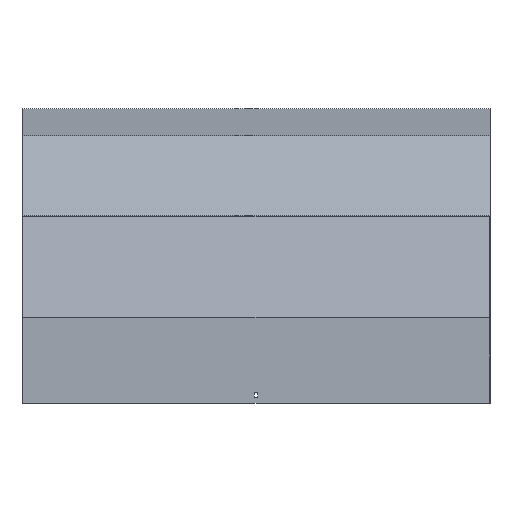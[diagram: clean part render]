
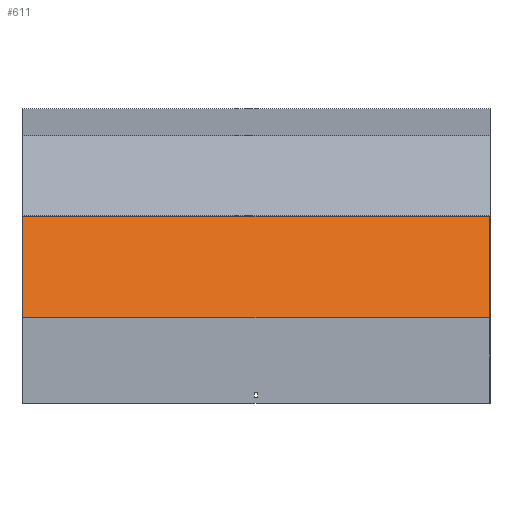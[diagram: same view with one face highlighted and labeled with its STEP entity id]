
A CAD part, top view. The second image highlights one B-rep face of the part: STEP entity #611.
In plain terms, the highlighted planar face has unit normal (0, 0.259, 0.966).
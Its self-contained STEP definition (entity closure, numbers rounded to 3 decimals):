
#23 = EDGE_CURVE ( 'NONE', #1056, #671, #93, .T. ) ;
#93 = LINE ( 'NONE', #342, #1076 ) ;
#97 = CARTESIAN_POINT ( 'NONE',  ( 451.5, -187.902, 517.072 ) ) ;
#102 = VECTOR ( 'NONE', #889, 1000. ) ;
#131 = CARTESIAN_POINT ( 'NONE',  ( 451.5, -193.079, 518.459 ) ) ;
#137 = LINE ( 'NONE', #848, #183 ) ;
#183 = VECTOR ( 'NONE', #338, 1000. ) ;
#249 = VERTEX_POINT ( 'NONE', #97 ) ;
#259 = CARTESIAN_POINT ( 'NONE',  ( 451.5, -383.978, 569.611 ) ) ;
#329 = VECTOR ( 'NONE', #617, 1000. ) ;
#338 = DIRECTION ( 'NONE',  ( -1., 0., 0. ) ) ;
#342 = CARTESIAN_POINT ( 'NONE',  ( -451.5, -193.079, 518.459 ) ) ;
#419 = AXIS2_PLACEMENT_3D ( 'NONE', #131, #1066, #991 ) ;
#489 = CARTESIAN_POINT ( 'NONE',  ( 451.5, -383.978, 569.611 ) ) ;
#493 = ORIENTED_EDGE ( 'NONE', *, *, #525, .F. ) ;
#525 = EDGE_CURVE ( 'NONE', #249, #732, #736, .T. ) ;
#557 = FACE_OUTER_BOUND ( 'NONE', #859, .T. ) ;
#583 = ORIENTED_EDGE ( 'NONE', *, *, #23, .T. ) ;
#611 = ADVANCED_FACE ( 'NONE', ( #557 ), #898, .F. ) ;
#617 = DIRECTION ( 'NONE',  ( -1., 0., 0. ) ) ;
#671 = VERTEX_POINT ( 'NONE', #697 ) ;
#697 = CARTESIAN_POINT ( 'NONE',  ( -451.5, -383.978, 569.611 ) ) ;
#700 = EDGE_CURVE ( 'NONE', #249, #1056, #137, .T. ) ;
#732 = VERTEX_POINT ( 'NONE', #489 ) ;
#736 = LINE ( 'NONE', #823, #102 ) ;
#814 = ORIENTED_EDGE ( 'NONE', *, *, #700, .T. ) ;
#815 = LINE ( 'NONE', #259, #329 ) ;
#821 = EDGE_CURVE ( 'NONE', #732, #671, #815, .T. ) ;
#823 = CARTESIAN_POINT ( 'NONE',  ( 451.5, -193.079, 518.459 ) ) ;
#848 = CARTESIAN_POINT ( 'NONE',  ( 451.5, -187.902, 517.072 ) ) ;
#859 = EDGE_LOOP ( 'NONE', ( #583, #937, #493, #814 ) ) ;
#889 = DIRECTION ( 'NONE',  ( 0., -0.966, 0.259 ) ) ;
#898 = PLANE ( 'NONE',  #419 ) ;
#933 = DIRECTION ( 'NONE',  ( 0., -0.966, 0.259 ) ) ;
#937 = ORIENTED_EDGE ( 'NONE', *, *, #821, .F. ) ;
#991 = DIRECTION ( 'NONE',  ( 0., 0.966, -0.259 ) ) ;
#1025 = CARTESIAN_POINT ( 'NONE',  ( -451.5, -187.902, 517.072 ) ) ;
#1056 = VERTEX_POINT ( 'NONE', #1025 ) ;
#1066 = DIRECTION ( 'NONE',  ( 0., -0.259, -0.966 ) ) ;
#1076 = VECTOR ( 'NONE', #933, 1000. ) ;
